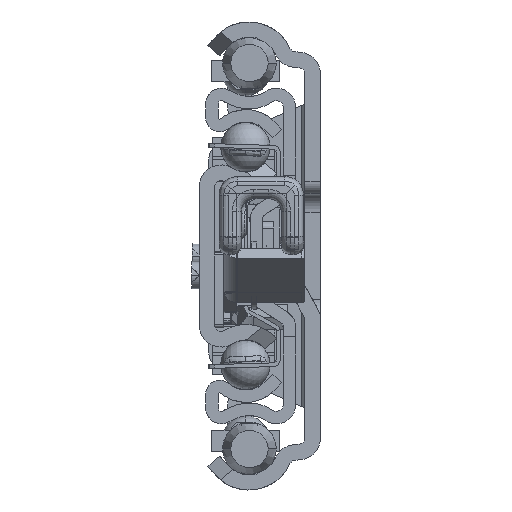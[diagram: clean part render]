
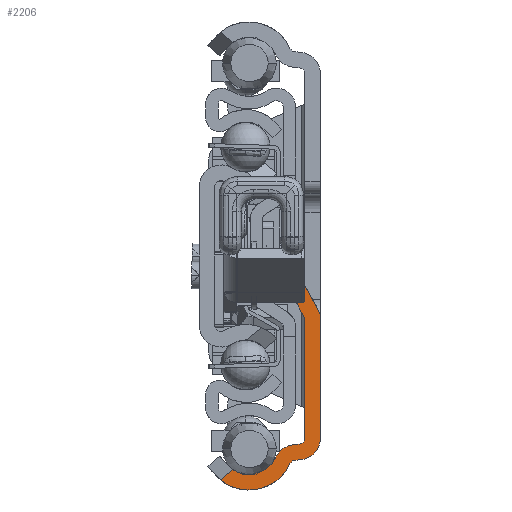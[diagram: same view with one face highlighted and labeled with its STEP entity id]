
A CAD part, left-side view. The second image highlights one B-rep face of the part: STEP entity #2206.
In plain terms, the highlighted planar face has unit normal (-1, 0, 0).
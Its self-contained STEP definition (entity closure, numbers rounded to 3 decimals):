
#45=DIRECTION('',(0.,0.769,-0.639));
#46=VECTOR('',#45,2.575);
#47=CARTESIAN_POINT('',(0.,14.098,-34.377));
#48=LINE('',#47,#46);
#49=CARTESIAN_POINT('',(0.,11.5,-30.4));
#50=DIRECTION('',(-1.,0.,0.));
#51=DIRECTION('',(0.,0.547,-0.837));
#52=AXIS2_PLACEMENT_3D('',#49,#50,#51);
#54=CARTESIAN_POINT('',(0.,4.008,-33.854));
#55=DIRECTION('',(-1.,0.,0.));
#56=DIRECTION('',(0.,0.087,0.996));
#57=AXIS2_PLACEMENT_3D('',#54,#55,#56);
#59=DIRECTION('',(0.,-0.996,0.087));
#60=VECTOR('',#59,0.904);
#61=CARTESIAN_POINT('',(0.,4.313,-30.368));
#62=LINE('',#61,#60);
#63=DIRECTION('',(0.,0.,1.));
#64=VECTOR('',#63,19.293);
#65=CARTESIAN_POINT('',(0.,2.5,-29.293));
#66=LINE('',#65,#64);
#67=DIRECTION('',(0.,-0.477,-0.879));
#68=VECTOR('',#67,6.873);
#69=CARTESIAN_POINT('',(0.,5.775,-3.958));
#70=LINE('',#69,#68);
#71=CARTESIAN_POINT('',(0.,0.5,-1.099));
#72=DIRECTION('',(-1.,0.,0.));
#73=DIRECTION('',(0.,0.946,-0.324));
#74=AXIS2_PLACEMENT_3D('',#71,#72,#73);
#76=DIRECTION('',(0.,1.,0.));
#77=VECTOR('',#76,2.78);
#78=CARTESIAN_POINT('',(0.,3.397,-3.04));
#79=LINE('',#78,#77);
#80=CARTESIAN_POINT('',(0.,2.5,-9.942));
#81=DIRECTION('',(-1.,0.,0.));
#82=DIRECTION('',(0.,-1.,0.));
#83=AXIS2_PLACEMENT_3D('',#80,#81,#82);
#85=CARTESIAN_POINT('',(0.,3.5,-29.293));
#86=DIRECTION('',(-1.,0.,0.));
#87=DIRECTION('',(0.,-0.087,-0.996));
#88=AXIS2_PLACEMENT_3D('',#85,#86,#87);
#90=DIRECTION('',(0.,0.996,-0.087));
#91=VECTOR('',#90,0.904);
#92=CARTESIAN_POINT('',(0.,3.195,-32.78));
#93=LINE('',#92,#91);
#94=CARTESIAN_POINT('',(0.,11.5,-30.4));
#95=DIRECTION('',(1.,0.,0.));
#96=DIRECTION('',(0.,-0.908,-0.419));
#97=AXIS2_PLACEMENT_3D('',#94,#95,#96);
#555=DIRECTION('',(0.,0.,1.));
#556=VECTOR('',#555,19.351);
#557=CARTESIAN_POINT('',(0.,0.,-29.293));
#558=LINE('',#557,#556);
#944=CARTESIAN_POINT('',(0.,16.079,
-36.021));
#999=CARTESIAN_POINT('',(0.,14.098,
-34.377));
#1289=CARTESIAN_POINT('',(0.,3.5,-29.293));
#1290=DIRECTION('',(1.,0.,0.));
#1291=DIRECTION('',(0.,-1.,0.));
#1292=AXIS2_PLACEMENT_3D('',#1289,#1290,#1291);
#1299=CARTESIAN_POINT('',(0.,4.008,-33.854));
#1300=DIRECTION('',(1.,0.,0.));
#1301=DIRECTION('',(0.,0.908,0.419));
#1302=AXIS2_PLACEMENT_3D('',#1299,#1300,#1301);
#1362=DIRECTION('',(0.,0.477,0.879));
#1363=VECTOR('',#1362,6.495);
#1364=CARTESIAN_POINT('',(0.,0.302,-8.751));
#1365=LINE('',#1364,#1363);
#1369=CARTESIAN_POINT('',(0.,3.397,-3.04));
#1379=CARTESIAN_POINT('',(0.,6.177,-3.04));
#1663=CARTESIAN_POINT('',(0.,2.5,-29.293));
#1664=CARTESIAN_POINT('',(0.,3.413,-30.289));
#1665=VERTEX_POINT('',#1663);
#1666=VERTEX_POINT('',#1664);
#1675=CARTESIAN_POINT('',(0.,4.916,-33.436));
#1676=CARTESIAN_POINT('',(0.,4.095,-32.858));
#1677=VERTEX_POINT('',#1675);
#1678=VERTEX_POINT('',#1676);
#1679=CARTESIAN_POINT('',(0.,4.313,-30.368));
#1680=CARTESIAN_POINT('',(0.,7.186,-32.389));
#1681=VERTEX_POINT('',#1679);
#1682=VERTEX_POINT('',#1680);
#1691=CARTESIAN_POINT('',(0.,3.195,-32.78));
#1692=CARTESIAN_POINT('',(0.,0.,-29.293));
#1693=VERTEX_POINT('',#1691);
#1694=VERTEX_POINT('',#1692);
#2073=VERTEX_POINT('',#944);
#2081=VERTEX_POINT('',#999);
#2082=CARTESIAN_POINT('',(0.,2.5,-10.));
#2083=VERTEX_POINT('',#2082);
#2122=VERTEX_POINT('',#1369);
#2124=CARTESIAN_POINT('',(0.,0.,-9.942));
#2125=VERTEX_POINT('',#2124);
#2126=CARTESIAN_POINT('',(0.,0.302,-8.751));
#2127=VERTEX_POINT('',#2126);
#2132=VERTEX_POINT('',#1379);
#2133=CARTESIAN_POINT('',(0.,5.775,-3.958));
#2134=VERTEX_POINT('',#2133);
#2167=CARTESIAN_POINT('',(0.,0.,0.));
#2168=DIRECTION('',(1.,0.,0.));
#2169=DIRECTION('',(0.,-1.,0.));
#2170=AXIS2_PLACEMENT_3D('',#2167,#2168,#2169);
#2171=PLANE('',#2170);
#2173=ORIENTED_EDGE('',*,*,#2172,.F.);
#2175=ORIENTED_EDGE('',*,*,#2174,.T.);
#2177=ORIENTED_EDGE('',*,*,#2176,.F.);
#2179=ORIENTED_EDGE('',*,*,#2178,.T.);
#2181=ORIENTED_EDGE('',*,*,#2180,.F.);
#2183=ORIENTED_EDGE('',*,*,#2182,.T.);
#2185=ORIENTED_EDGE('',*,*,#2184,.F.);
#2187=ORIENTED_EDGE('',*,*,#2186,.F.);
#2189=ORIENTED_EDGE('',*,*,#2188,.F.);
#2191=ORIENTED_EDGE('',*,*,#2190,.F.);
#2193=ORIENTED_EDGE('',*,*,#2192,.F.);
#2195=ORIENTED_EDGE('',*,*,#2194,.F.);
#2197=ORIENTED_EDGE('',*,*,#2196,.F.);
#2199=ORIENTED_EDGE('',*,*,#2198,.T.);
#2201=ORIENTED_EDGE('',*,*,#2200,.F.);
#2203=ORIENTED_EDGE('',*,*,#2202,.T.);
#2204=EDGE_LOOP('',(#2173,#2175,#2177,#2179,#2181,#2183,#2185,#2187,#2189,#2191,
#2193,#2195,#2197,#2199,#2201,#2203));
#2205=FACE_OUTER_BOUND('',#2204,.F.);
#53=CIRCLE('',#52,4.75);
#58=CIRCLE('',#57,3.5);
#75=CIRCLE('',#74,6.);
#84=CIRCLE('',#83,2.5);
#89=CIRCLE('',#88,3.5);
#98=CIRCLE('',#97,7.25);
#1293=CIRCLE('',#1292,1.);
#1303=CIRCLE('',#1302,1.);
#2172=EDGE_CURVE('',#2081,#2073,#48,.T.);
#2174=EDGE_CURVE('',#2081,#1682,#53,.T.);
#2176=EDGE_CURVE('',#1681,#1682,#58,.T.);
#2178=EDGE_CURVE('',#1681,#1666,#62,.T.);
#2180=EDGE_CURVE('',#1665,#1666,#1293,.T.);
#2182=EDGE_CURVE('',#1665,#2083,#66,.T.);
#2184=EDGE_CURVE('',#2134,#2083,#70,.T.);
#2186=EDGE_CURVE('',#2132,#2134,#75,.T.);
#2188=EDGE_CURVE('',#2122,#2132,#79,.T.);
#2190=EDGE_CURVE('',#2127,#2122,#1365,.T.);
#2192=EDGE_CURVE('',#2125,#2127,#84,.T.);
#2194=EDGE_CURVE('',#1694,#2125,#558,.T.);
#2196=EDGE_CURVE('',#1693,#1694,#89,.T.);
#2198=EDGE_CURVE('',#1693,#1678,#93,.T.);
#2200=EDGE_CURVE('',#1677,#1678,#1303,.T.);
#2202=EDGE_CURVE('',#1677,#2073,#98,.T.);
#2206=ADVANCED_FACE('',(#2205),#2171,.F.);
